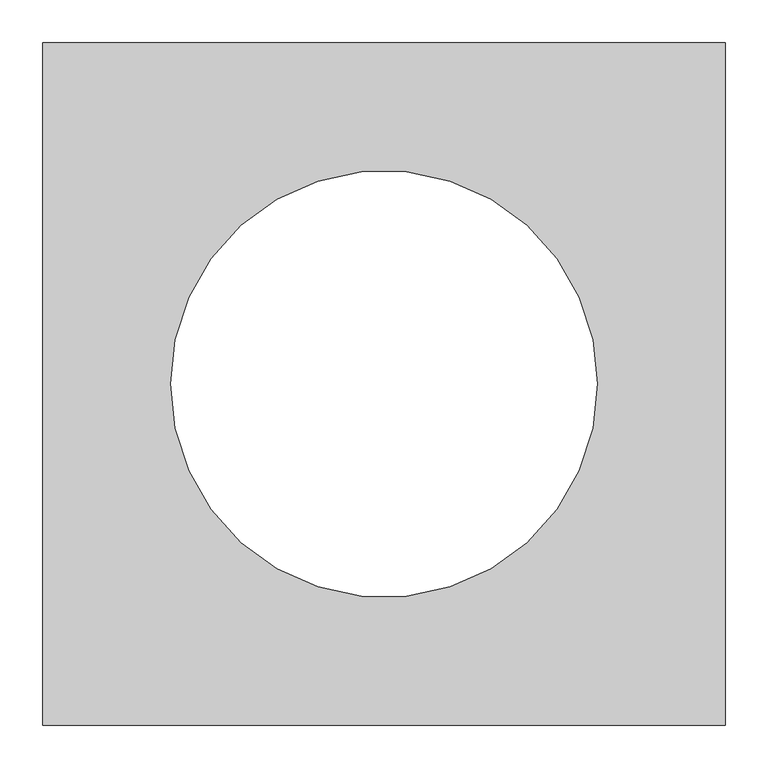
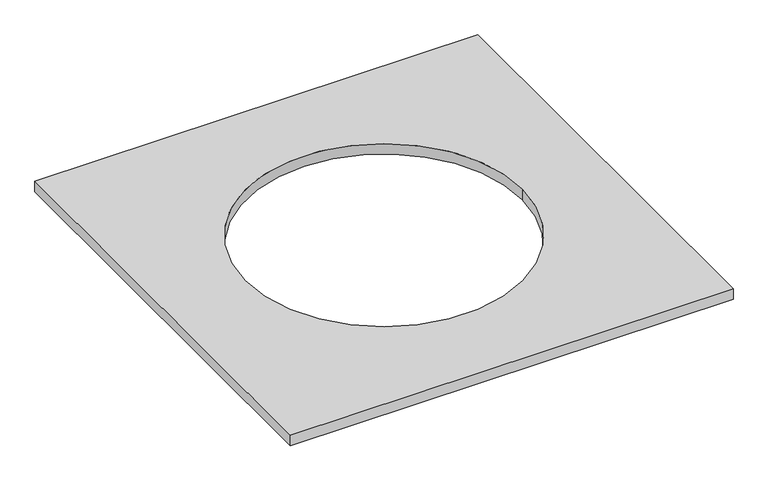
"""IFC4 building model written with IfcOpenShell, lengths in millimetres: proxy geometry, RAUSIKKO C3 Chamber : RSK C3 Chamber."""

from ifc_helpers import new_model, si_unit, point, frame, frame_2d, origin, place, context, project, spatial, polyline, circle_curve, trimmed, segment, composite_curve, outline, extrude, source, transform, mapped, element, save


def generic_models_12264839(model_context):
    return source(origin(), model_context, "Body", "SweptSolid", [
        extrude(outline(polyline([(800.0, 0.0), (0.0, 0.0), (0.0, 800.0), (800.0, 800.0), (800.0, 0.0)]), holes=[composite_curve([segment(trimmed(circle_curve(frame_2d((400.0, 400.0)), 250.0), [point((650.0, 400.0))], [point((150.0, 400.0))], True, "CARTESIAN"), True, "CONTINUOUS"), segment(trimmed(circle_curve(frame_2d((400.0, 400.0)), 250.0), [point((150.0, 400.0))], [point((650.0, 400.0))], True, "CARTESIAN"), True, "CONTINUOUS")], self_intersect=False)]), frame((0.0, 0.0, 1650.0), z_axis=(0.0, 0.0, 1.0), x_axis=(1.0, 0.0, 0.0)), (0.0, 0.0, 1.0), 20.0),
    ])


if __name__ == "__main__":
    model = new_model("IFC4")
    model_context = context("Model", 3, world=origin())
    ifc_project = project(units=[si_unit("LENGTHUNIT", "METRE", prefix="MILLI")], contexts=[model_context])
    site = spatial("IfcSite", under=ifc_project)
    building = spatial("IfcBuilding", under=site)
    placement = place(None, origin())
    generic_models_shape = generic_models_12264839(model_context)
    element("IfcBuildingElementProxy", 1, Name="RAUSIKKO C3 Chamber : RSK C3 Chamber", ObjectType="RAUSIKKO C3 Chamber : RSK C3 Chamber", at=placement, inside=building, context=model_context, shape_type="MappedRepresentation", body=[
        mapped(generic_models_shape, transform((0.0, 0.0, 0.0), x_axis=(1.0, 0.0, 0.0), y_axis=(0.0, 1.0, 0.0), z_axis=(0.0, 0.0, 1.0))),
    ])
    save(model, "model.ifc")
